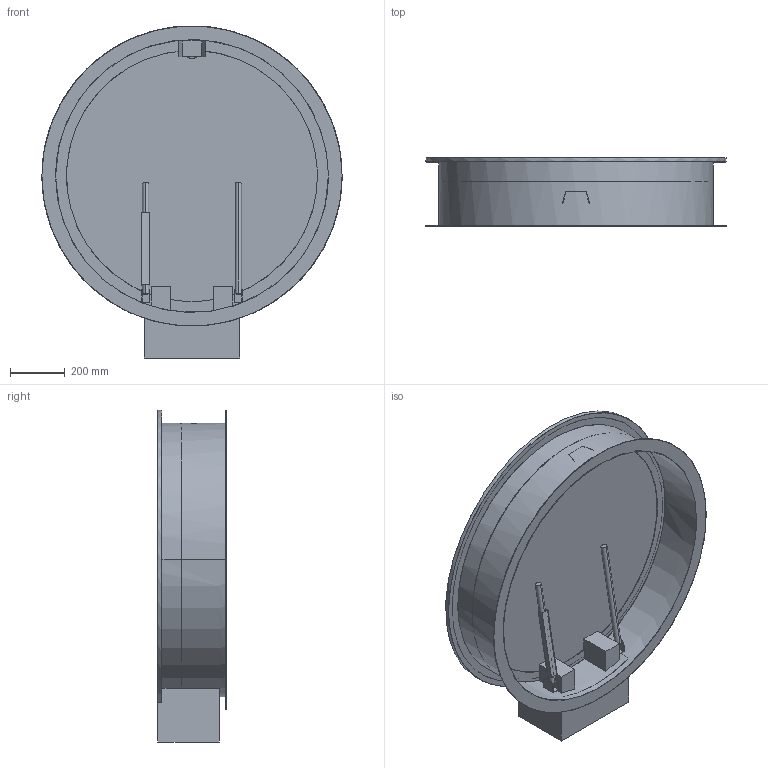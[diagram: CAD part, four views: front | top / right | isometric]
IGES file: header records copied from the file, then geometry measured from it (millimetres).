
Start section:  PTC IGES file: 52432157.igs
Global section: file name: 52432157.igs; native system: Creo Parametric by PTC Inc.; preprocessor: 2022162; author: wep; organization: Unknown; date: 20250724.090336; units: millimetre
Bounding box: 1100 x 250.01 x 1216.52 mm (x, y, z)
Surface area: 4643574.2 mm2 (no closed solid volume)
Topology: 0 solids, 0 shells, 687 faces, 3726 edges, 3726 vertices
Faces by surface type: bspline 380, extrusion 275, revolution 32
